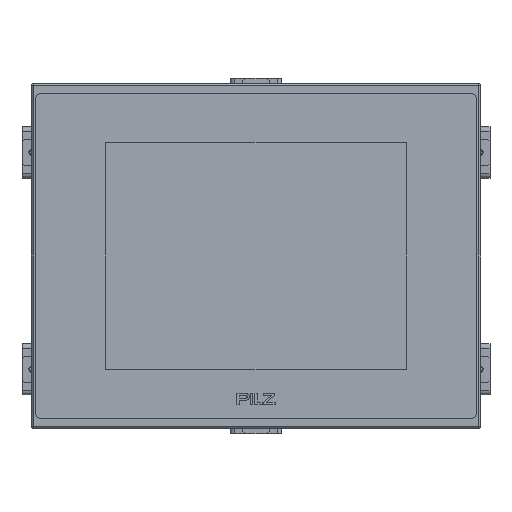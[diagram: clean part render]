
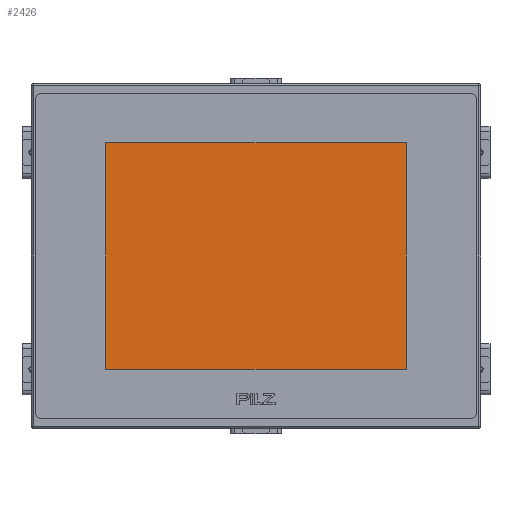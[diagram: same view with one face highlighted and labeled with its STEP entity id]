
A CAD part, front view. The second image highlights one B-rep face of the part: STEP entity #2426.
In plain terms, the highlighted planar face has unit normal (0, -1, 0).
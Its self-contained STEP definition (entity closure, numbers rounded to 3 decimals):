
#815=DIRECTION('',(0.,0.,-1.));
#816=VECTOR('',#815,159.5);
#817=CARTESIAN_POINT('',(-106.,-6.,79.75));
#818=LINE('',#817,#816);
#822=DIRECTION('',(-1.,0.,0.));
#823=VECTOR('',#822,212.);
#824=CARTESIAN_POINT('',(106.,-6.,79.75));
#825=LINE('',#824,#823);
#829=DIRECTION('',(0.,0.,1.));
#830=VECTOR('',#829,159.5);
#831=CARTESIAN_POINT('',(106.,-6.,-79.75));
#832=LINE('',#831,#830);
#836=DIRECTION('',(1.,0.,0.));
#837=VECTOR('',#836,212.);
#838=CARTESIAN_POINT('',(-106.,-6.,-79.75));
#839=LINE('',#838,#837);
#1649=CARTESIAN_POINT('',(-106.,-6.,79.75));
#1650=CARTESIAN_POINT('',(-106.,-6.,-79.75));
#1651=VERTEX_POINT('',#1649);
#1652=VERTEX_POINT('',#1650);
#1653=CARTESIAN_POINT('',(106.,-6.,-79.75));
#1654=VERTEX_POINT('',#1653);
#1655=CARTESIAN_POINT('',(106.,-6.,79.75));
#1656=VERTEX_POINT('',#1655);
#2415=CARTESIAN_POINT('',(0.,-6.,0.));
#2416=DIRECTION('',(0.,-1.,0.));
#2417=DIRECTION('',(1.,0.,0.));
#2418=AXIS2_PLACEMENT_3D('',#2415,#2416,#2417);
#2419=PLANE('',#2418);
#2420=ORIENTED_EDGE('',*,*,#2367,.F.);
#2421=ORIENTED_EDGE('',*,*,#2382,.F.);
#2422=ORIENTED_EDGE('',*,*,#2396,.F.);
#2423=ORIENTED_EDGE('',*,*,#2409,.F.);
#2424=EDGE_LOOP('',(#2420,#2421,#2422,#2423));
#2425=FACE_OUTER_BOUND('',#2424,.F.);
#2367=EDGE_CURVE('',#1651,#1652,#818,.T.);
#2382=EDGE_CURVE('',#1656,#1651,#825,.T.);
#2396=EDGE_CURVE('',#1654,#1656,#832,.T.);
#2409=EDGE_CURVE('',#1652,#1654,#839,.T.);
#2426=ADVANCED_FACE('',(#2425),#2419,.T.);
